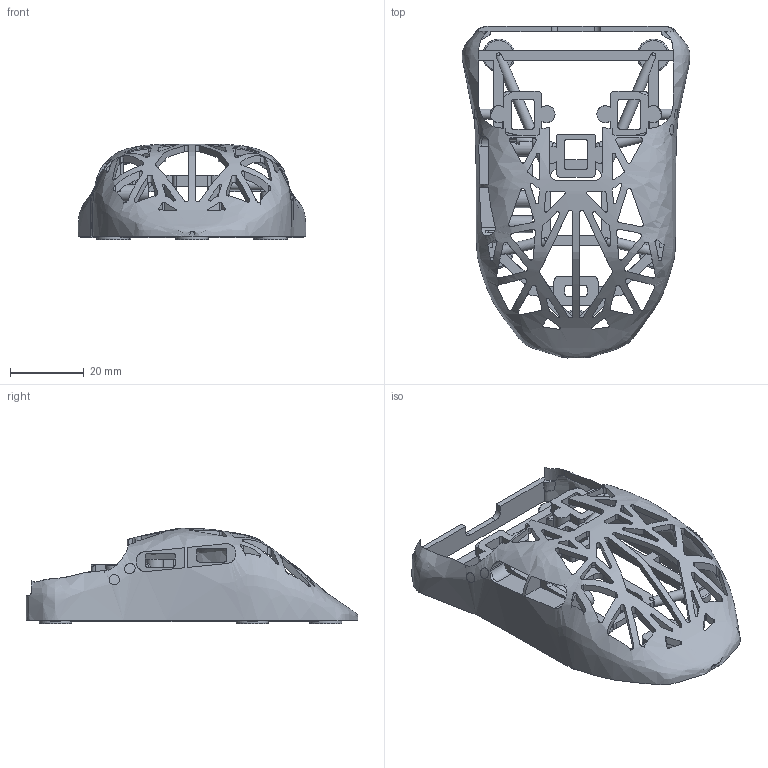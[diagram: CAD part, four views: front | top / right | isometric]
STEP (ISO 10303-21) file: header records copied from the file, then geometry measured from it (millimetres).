
FILE_DESCRIPTION(('Open CASCADE Model'),'2;1');
FILE_NAME('Open CASCADE Shape Model','2026-10-15T18:16:25',('Author'),( 'Open CASCADE'),'Open CASCADE STEP processor 7.9','Open CASCADE 7.9' ,'Unknown');
FILE_SCHEMA(('AUTOMOTIVE_DESIGN { 1 0 10303 214 1 1 1 1 }'));
Products named in the file (1): Open CASCADE STEP translator 7.9 1
Bounding box: 61.96 x 90.26 x 25.99 mm (x, y, z)
Volume: 13585.2 mm3; surface area: 18941.3 mm2
Topology: 1 solids, 1 shells, 839 faces, 2627 edges, 1773 vertices
Faces by surface type: plane 548, cylinder 234, torus 21, bspline 20, sphere 16
Full cylindrical faces by diameter (mm): 1.7 x10, 2.8 x9, 4.6 x10, 8.8 x5
Entity records: 585627 total; most frequent: CARTESIAN_POINT 563033, ORIENTED_EDGE 5242, DIRECTION 4037, EDGE_CURVE 2621, VERTEX_POINT 1773, LINE 1499, VECTOR 1499, AXIS2_PLACEMENT_3D 1269
